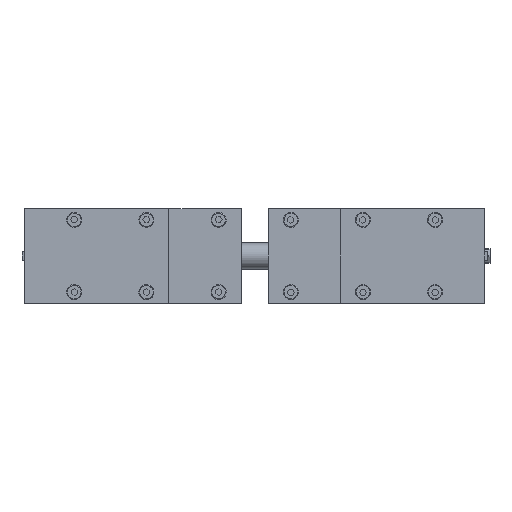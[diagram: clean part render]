
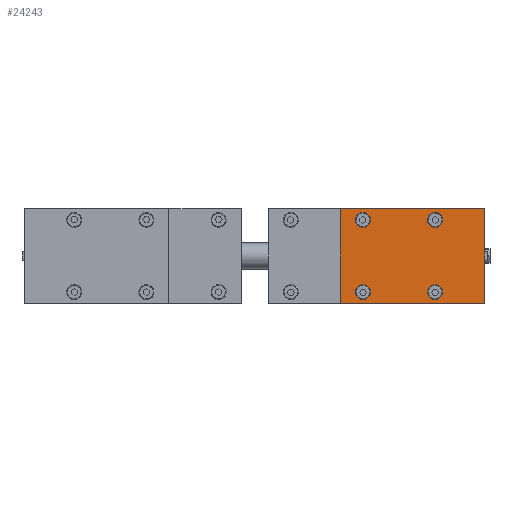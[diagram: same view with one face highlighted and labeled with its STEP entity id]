
A CAD part, front view. The second image highlights one B-rep face of the part: STEP entity #24243.
In plain terms, the highlighted planar face has unit normal (0, -1, 0).
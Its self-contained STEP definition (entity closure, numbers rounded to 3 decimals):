
#310 = EDGE_LOOP ( 'NONE', ( #13506, #13152 ) ) ;
#514 = AXIS2_PLACEMENT_3D ( 'NONE', #44173, #11535, #51329 ) ;
#2971 = DIRECTION ( 'NONE',  ( 0., 1., 0. ) ) ;
#3185 = VERTEX_POINT ( 'NONE', #44438 ) ;
#3348 = CARTESIAN_POINT ( 'NONE',  ( 240., 0., 48. ) ) ;
#4430 = ORIENTED_EDGE ( 'NONE', *, *, #14901, .T. ) ;
#4849 = VERTEX_POINT ( 'NONE', #34649 ) ;
#6176 = CARTESIAN_POINT ( 'NONE',  ( 144., 0., 56. ) ) ;
#6242 = CARTESIAN_POINT ( 'NONE',  ( 306.2, 0., -62.8 ) ) ;
#7673 = ORIENTED_EDGE ( 'NONE', *, *, #81875, .T. ) ;
#9029 = EDGE_CURVE ( 'NONE', #4849, #3185, #53477, .T. ) ;
#9845 = EDGE_CURVE ( 'NONE', #47149, #68177, #46460, .T. ) ;
#11535 = DIRECTION ( 'NONE',  ( 0., 1., 0. ) ) ;
#12253 = EDGE_CURVE ( 'NONE', #40647, #75235, #23884, .T. ) ;
#12302 = EDGE_CURVE ( 'NONE', #40220, #68177, #47497, .T. ) ;
#12830 = FACE_BOUND ( 'NONE', #42239, .T. ) ;
#13076 = DIRECTION ( 'NONE',  ( 0., 0., -1. ) ) ;
#13152 = ORIENTED_EDGE ( 'NONE', *, *, #15107, .T. ) ;
#13170 = VECTOR ( 'NONE', #45653, 1000. ) ;
#13506 = ORIENTED_EDGE ( 'NONE', *, *, #9029, .T. ) ;
#13805 = ORIENTED_EDGE ( 'NONE', *, *, #9845, .F. ) ;
#13901 = CIRCLE ( 'NONE', #51045, 8. ) ;
#14505 = VERTEX_POINT ( 'NONE', #34058 ) ;
#14901 = EDGE_CURVE ( 'NONE', #75235, #40647, #72958, .T. ) ;
#14925 = ORIENTED_EDGE ( 'NONE', *, *, #83162, .T. ) ;
#15107 = EDGE_CURVE ( 'NONE', #3185, #4849, #67316, .T. ) ;
#16353 = FACE_BOUND ( 'NONE', #29169, .T. ) ;
#17363 = DIRECTION ( 'NONE',  ( 0., 0., -1. ) ) ;
#17481 = CARTESIAN_POINT ( 'NONE',  ( 144., 0., 48. ) ) ;
#18649 = DIRECTION ( 'NONE',  ( 0., 0., -1. ) ) ;
#20725 = VERTEX_POINT ( 'NONE', #39657 ) ;
#20840 = CARTESIAN_POINT ( 'NONE',  ( 306.01, 0., -62.8 ) ) ;
#20931 = CARTESIAN_POINT ( 'NONE',  ( 240., 0., -56. ) ) ;
#23057 = FACE_BOUND ( 'NONE', #87138, .T. ) ;
#23143 = CARTESIAN_POINT ( 'NONE',  ( 144., 0., -48. ) ) ;
#23569 = DIRECTION ( 'NONE',  ( 0., 0., -1. ) ) ;
#23884 = CIRCLE ( 'NONE', #78369, 8. ) ;
#24243 = ADVANCED_FACE ( 'NONE', ( #23057, #77814, #16353, #12830, #74168 ), #47236, .T. ) ;
#24503 = DIRECTION ( 'NONE',  ( 0., 1., 0. ) ) ;
#26544 = ORIENTED_EDGE ( 'NONE', *, *, #54313, .T. ) ;
#29169 = EDGE_LOOP ( 'NONE', ( #33973, #26544 ) ) ;
#30049 = VERTEX_POINT ( 'NONE', #55939 ) ;
#32431 = DIRECTION ( 'NONE',  ( 0., 0., -1. ) ) ;
#32945 = AXIS2_PLACEMENT_3D ( 'NONE', #3348, #38639, #73193 ) ;
#33973 = ORIENTED_EDGE ( 'NONE', *, *, #48135, .T. ) ;
#34058 = CARTESIAN_POINT ( 'NONE',  ( 144., 0., -56. ) ) ;
#34649 = CARTESIAN_POINT ( 'NONE',  ( 240., 0., 40. ) ) ;
#34878 = AXIS2_PLACEMENT_3D ( 'NONE', #23143, #45085, #58611 ) ;
#36554 = VERTEX_POINT ( 'NONE', #54410 ) ;
#38639 = DIRECTION ( 'NONE',  ( 0., 1., 0. ) ) ;
#39350 = CIRCLE ( 'NONE', #34878, 8. ) ;
#39657 = CARTESIAN_POINT ( 'NONE',  ( 240., 0., -40. ) ) ;
#40220 = VERTEX_POINT ( 'NONE', #65323 ) ;
#40647 = VERTEX_POINT ( 'NONE', #66145 ) ;
#42239 = EDGE_LOOP ( 'NONE', ( #50076, #7673 ) ) ;
#43700 = ORIENTED_EDGE ( 'NONE', *, *, #12253, .T. ) ;
#44173 = CARTESIAN_POINT ( 'NONE',  ( 240., 0., -48. ) ) ;
#44438 = CARTESIAN_POINT ( 'NONE',  ( 240., 0., 56. ) ) ;
#44891 = AXIS2_PLACEMENT_3D ( 'NONE', #74290, #74740, #18649 ) ;
#45085 = DIRECTION ( 'NONE',  ( 0., 1., 0. ) ) ;
#45653 = DIRECTION ( 'NONE',  ( -1., 0., 0. ) ) ;
#46460 = LINE ( 'NONE', #6242, #74166 ) ;
#47149 = VERTEX_POINT ( 'NONE', #80138 ) ;
#47236 = PLANE ( 'NONE',  #51172 ) ;
#47497 = LINE ( 'NONE', #47916, #65483 ) ;
#47532 = EDGE_LOOP ( 'NONE', ( #13805, #57468, #14925, #88297 ) ) ;
#47916 = CARTESIAN_POINT ( 'NONE',  ( 114.01, 0., -62.8 ) ) ;
#48135 = EDGE_CURVE ( 'NONE', #58314, #20725, #54787, .T. ) ;
#50076 = ORIENTED_EDGE ( 'NONE', *, *, #75938, .T. ) ;
#51045 = AXIS2_PLACEMENT_3D ( 'NONE', #52303, #24503, #17363 ) ;
#51172 = AXIS2_PLACEMENT_3D ( 'NONE', #67415, #66977, #32431 ) ;
#51329 = DIRECTION ( 'NONE',  ( 0., 0., -1. ) ) ;
#51811 = CARTESIAN_POINT ( 'NONE',  ( 144., 0., 48. ) ) ;
#51994 = DIRECTION ( 'NONE',  ( 0., 1., 0. ) ) ;
#52303 = CARTESIAN_POINT ( 'NONE',  ( 240., 0., -48. ) ) ;
#53477 = CIRCLE ( 'NONE', #44891, 8. ) ;
#54313 = EDGE_CURVE ( 'NONE', #20725, #58314, #13901, .T. ) ;
#54410 = CARTESIAN_POINT ( 'NONE',  ( 144., 0., -40. ) ) ;
#54787 = CIRCLE ( 'NONE', #514, 8. ) ;
#55939 = CARTESIAN_POINT ( 'NONE',  ( 306.01, 0., 62.8 ) ) ;
#56519 = EDGE_CURVE ( 'NONE', #47149, #30049, #62123, .T. ) ;
#57468 = ORIENTED_EDGE ( 'NONE', *, *, #56519, .T. ) ;
#57694 = DIRECTION ( 'NONE',  ( 0., 1., 0. ) ) ;
#58314 = VERTEX_POINT ( 'NONE', #20931 ) ;
#58316 = AXIS2_PLACEMENT_3D ( 'NONE', #64767, #2971, #58497 ) ;
#58497 = DIRECTION ( 'NONE',  ( 0., 0., -1. ) ) ;
#58611 = DIRECTION ( 'NONE',  ( 0., 0., -1. ) ) ;
#58726 = VECTOR ( 'NONE', #67461, 1000. ) ;
#62123 = LINE ( 'NONE', #20840, #58726 ) ;
#62618 = CIRCLE ( 'NONE', #58316, 8. ) ;
#63564 = CARTESIAN_POINT ( 'NONE',  ( 114.01, 0., -62.8 ) ) ;
#64767 = CARTESIAN_POINT ( 'NONE',  ( 144., 0., -48. ) ) ;
#65323 = CARTESIAN_POINT ( 'NONE',  ( 114.01, 0., 62.8 ) ) ;
#65483 = VECTOR ( 'NONE', #13076, 1000. ) ;
#66145 = CARTESIAN_POINT ( 'NONE',  ( 144., 0., 40. ) ) ;
#66977 = DIRECTION ( 'NONE',  ( 0., -1., 0. ) ) ;
#67316 = CIRCLE ( 'NONE', #32945, 8. ) ;
#67415 = CARTESIAN_POINT ( 'NONE',  ( 306.2, 0., 62.8 ) ) ;
#67461 = DIRECTION ( 'NONE',  ( 0., 0., 1. ) ) ;
#68177 = VERTEX_POINT ( 'NONE', #63564 ) ;
#71536 = AXIS2_PLACEMENT_3D ( 'NONE', #51811, #57694, #23569 ) ;
#72958 = CIRCLE ( 'NONE', #71536, 8. ) ;
#73029 = CARTESIAN_POINT ( 'NONE',  ( 306.2, 0., 62.8 ) ) ;
#73193 = DIRECTION ( 'NONE',  ( 0., 0., -1. ) ) ;
#74166 = VECTOR ( 'NONE', #88661, 1000. ) ;
#74168 = FACE_OUTER_BOUND ( 'NONE', #47532, .T. ) ;
#74290 = CARTESIAN_POINT ( 'NONE',  ( 240., 0., 48. ) ) ;
#74740 = DIRECTION ( 'NONE',  ( 0., 1., 0. ) ) ;
#75235 = VERTEX_POINT ( 'NONE', #6176 ) ;
#75938 = EDGE_CURVE ( 'NONE', #14505, #36554, #39350, .T. ) ;
#77814 = FACE_BOUND ( 'NONE', #310, .T. ) ;
#78369 = AXIS2_PLACEMENT_3D ( 'NONE', #17481, #51994, #85688 ) ;
#80138 = CARTESIAN_POINT ( 'NONE',  ( 306.01, 0., -62.8 ) ) ;
#80215 = LINE ( 'NONE', #73029, #13170 ) ;
#81875 = EDGE_CURVE ( 'NONE', #36554, #14505, #62618, .T. ) ;
#83162 = EDGE_CURVE ( 'NONE', #30049, #40220, #80215, .T. ) ;
#85688 = DIRECTION ( 'NONE',  ( 0., 0., -1. ) ) ;
#87138 = EDGE_LOOP ( 'NONE', ( #43700, #4430 ) ) ;
#88297 = ORIENTED_EDGE ( 'NONE', *, *, #12302, .T. ) ;
#88661 = DIRECTION ( 'NONE',  ( -1., 0., 0. ) ) ;
